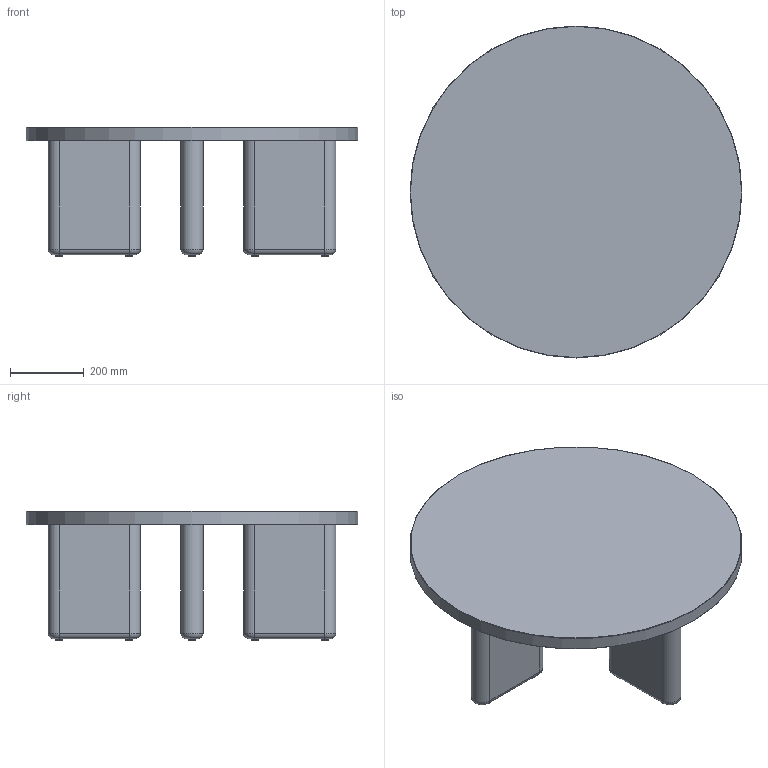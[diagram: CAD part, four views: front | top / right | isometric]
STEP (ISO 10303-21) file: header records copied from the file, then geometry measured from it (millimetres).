
FILE_DESCRIPTION(/* description */ ('Unknown'),/* implementation_level */ '2;1');
FILE_NAME(/* name */ 'MIN003-900_DIA-r-D',/* time_stamp */ '2024-07-15T07:45:18+10:00',/* author */ ('Unknown'),/* organization */ ('Unknown'),/* preprocessor_version */ 'ST-DEVELOPER v16.7',/* originating_system */ 'Solid Edge',/* authorisation */ 'Unknown');
FILE_SCHEMA (('AUTOMOTIVE_DESIGN {1 0 10303 214 3 1 1}'));
Length unit declared in the file: millimetre
Products named in the file (7): MIN003-900_DIA-r-D; PLASTIC_NAIL_GLIDE_MIN; CSK TORX WOOD SCREW M8X80 ; MIN109-LEG_BRKT-r-C; MIN106-LEG_250Lx309H-r-C; M6X20_CSK_HEX; MIN105-900_DIA_TOP-r-B
Assembly tree (53 placements, depth 2):
  MIN003-900_DIA-r-D
    PLASTIC_NAIL_GLIDE_MIN  x8
    CSK TORX WOOD SCREW M8X80   x16
    MIN109-LEG_BRKT-r-C  x8
    MIN106-LEG_250Lx309H-r-C  x4
    M6X20_CSK_HEX  x16
    MIN105-900_DIA_TOP-r-B
Bounding box: 900 x 900 x 350 mm (x, y, z)
Volume: 40360486.6 mm3; surface area: 2341171.7 mm2
Topology: 53 solids, 53 shells, 1509 faces, 3471 edges, 2132 vertices
Faces by surface type: plane 802, cylinder 401, cone 208, torus 82, sphere 16
Full cylindrical faces by diameter (mm): 1 x8, 3.5 x16, 4 x16, 6 x32, 7 x16, 8 x16, 10 x16, 11.7 x16, 15 x16, 19 x8, 900 x1
Entity records: 5480 total; most frequent: DIRECTION 986, CARTESIAN_POINT 870, ORIENTED_EDGE 688, AXIS2_PLACEMENT_3D 410, EDGE_CURVE 344, EDGE_LOOP 278, FACE_BOUND 278, VERTEX_POINT 246
